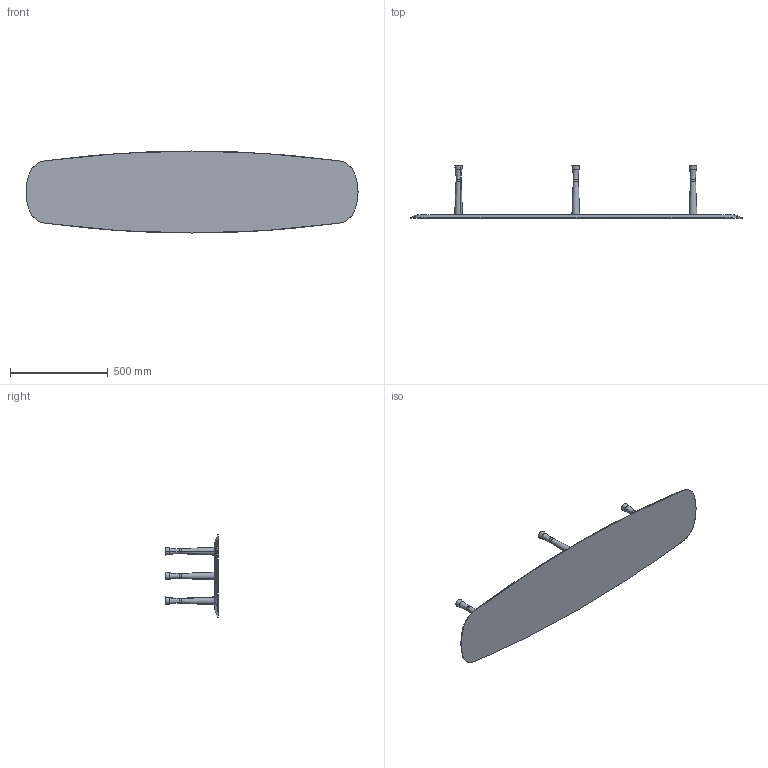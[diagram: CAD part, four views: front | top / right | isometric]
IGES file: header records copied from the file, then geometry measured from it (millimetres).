
Start section: SolidWorks IGES file using analytic representation for surfaces
Global section: file name: N:\OT\OFICINA TECNICA\PROYECTOS\EN DESARROLLO\COLECCION_UNICA\TODO_FINAL\3D\COLECCION_UNICA_MESA_CENTRO\3D\3D SOLIDWORKS\MESA_ÚNICA.IGS; native system: SolidWorks 2016; preprocessor: SolidWorks 2016; author: Usuario; date: 180403.115600; units: millimetre
Bounding box: 1700 x 268 x 420 mm (x, y, z)
Surface area: 1405501.9 mm2 (no closed solid volume)
Topology: 0 solids, 0 shells, 84 faces, 1410 edges, 1410 vertices
Faces by surface type: revolution 50, bspline 34
